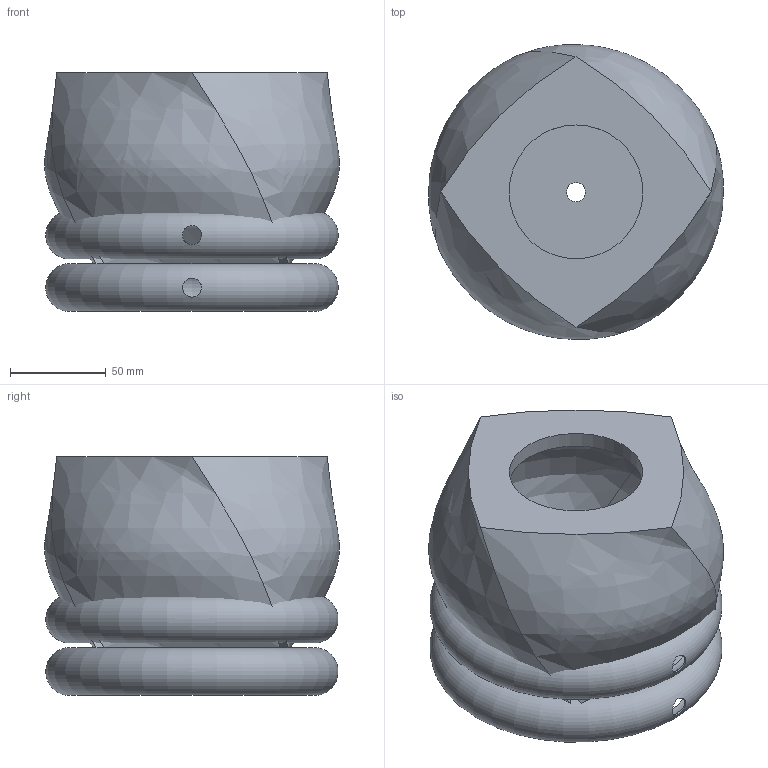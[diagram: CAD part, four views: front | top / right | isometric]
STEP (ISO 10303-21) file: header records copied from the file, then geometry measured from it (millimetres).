
FILE_DESCRIPTION( ( 'STEP AP203' ), '1' );
FILE_NAME( '//srvbf/BF Disegni/ARRIGHI FRANCESCA/AUREA/AUREA-T-L Lumetto 3D.stp', '2020-10-16T06:26:05', ( ' ' ), ( ' ' ), 'XStep 1.0', ' ', ' ' );
FILE_SCHEMA( ( 'CONFIG_CONTROL_DESIGN) ( )' ) );
Length unit declared in the file: metre
Products named in the file (3): Assem1; 1; 2
Bounding box: 154.3 x 154.3 x 125 mm (x, y, z)
Volume: 863057.9 mm3; surface area: 333576.2 mm2
Topology: 4 solids, 4 shells, 76 faces, 204 edges, 136 vertices
Faces by surface type: plane 28, extrusion 16, cylinder 12, bspline 8, offset 8, torus 4
Full cylindrical faces by diameter (mm): 5 x4, 10 x4, 70 x2, 128 x2
Entity records: 2878 total; most frequent: CARTESIAN_POINT 1933, ORIENTED_EDGE 180, DIRECTION 114, EDGE_CURVE 90, VERTEX_POINT 64, B_SPLINE_CURVE_WITH_KNOTS 62, EDGE_LOOP 56, FACE_OUTER_BOUND 46
